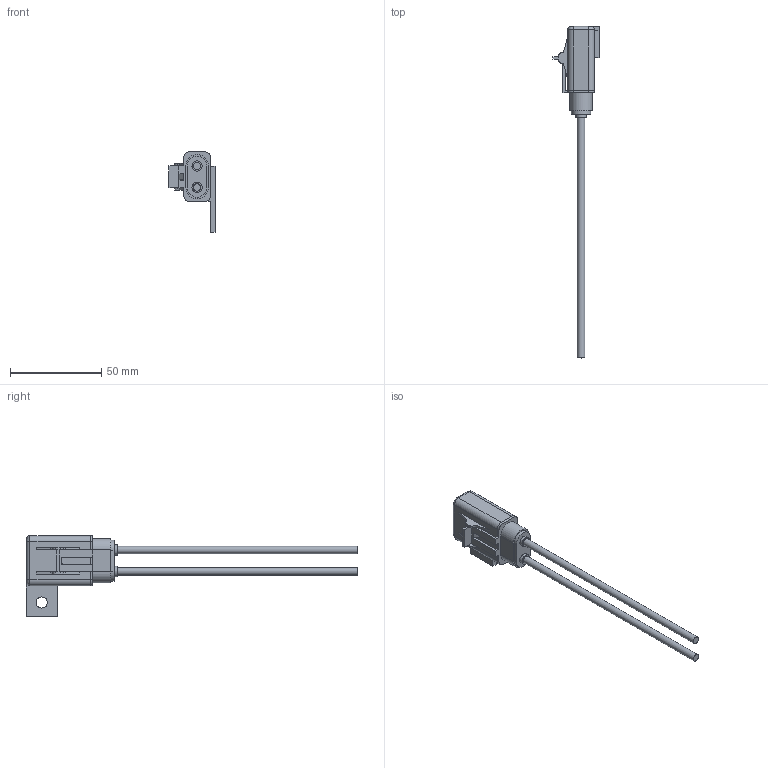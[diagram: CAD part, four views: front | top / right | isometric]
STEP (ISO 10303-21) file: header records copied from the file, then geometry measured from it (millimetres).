
FILE_DESCRIPTION(/* description */ (''),/* implementation_level */ '2;1');
FILE_NAME(/* name */ 'C:\Users\Hani\Desktop\work\LPM-05\LPM-05.stp',/* time_stamp */ '2021-07-24T16:00:18-07:00',/* author */ ('Hani'),/* organization */ (''),/* preprocessor_version */ 'ST-DEVELOPER v17',/* originating_system */ 'Autodesk Inventor 2019',/* authorisation */ '');
FILE_SCHEMA (('AUTOMOTIVE_DESIGN { 1 0 10303 214 3 1 1 }'));
Length unit declared in the file: inch
Products named in the file (3): LPM-05; LPM-05_1; Cover
Assembly tree (2 placements, depth 2):
  LPM-05
    LPM-05_1
    Cover
Bounding box: 25.32 x 182.17 x 44.2 mm (x, y, z)
Volume: 15225.8 mm3; surface area: 14312.3 mm2
Topology: 2 solids, 2 shells, 343 faces, 884 edges, 568 vertices
Faces by surface type: plane 178, bspline 72, cylinder 61, torus 24, cone 8
Full cylindrical faces by diameter (mm): 4.064 x2, 5.588 x1, 5.639 x1, 6.096 x1
Entity records: 11222 total; most frequent: CARTESIAN_POINT 2955, ORIENTED_EDGE 1768, DIRECTION 1467, EDGE_CURVE 884, LINE 579, VECTOR 579, VERTEX_POINT 568, AXIS2_PLACEMENT_3D 444
